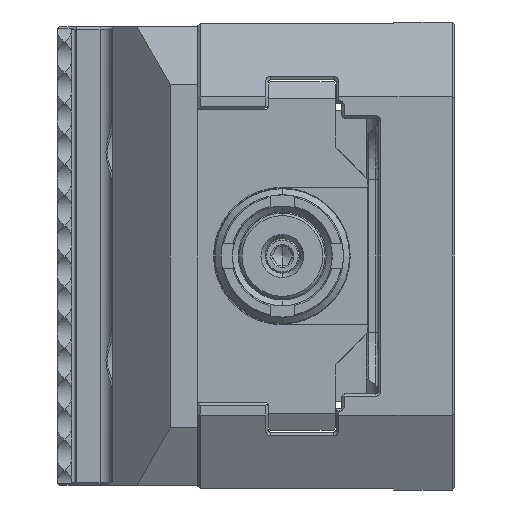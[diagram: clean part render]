
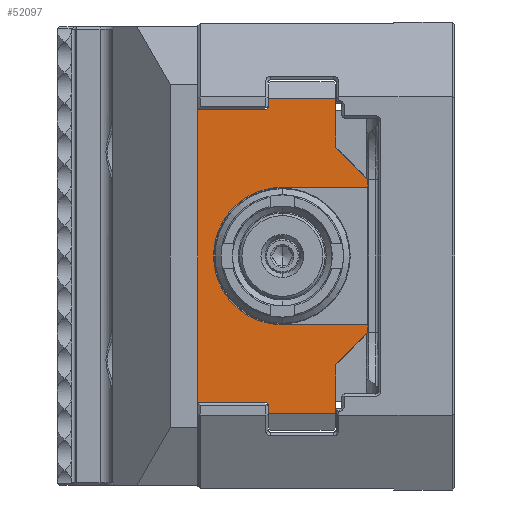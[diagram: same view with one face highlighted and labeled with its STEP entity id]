
A CAD part, left-side view. The second image highlights one B-rep face of the part: STEP entity #52097.
In plain terms, the highlighted planar face has unit normal (-1, 0, 0).
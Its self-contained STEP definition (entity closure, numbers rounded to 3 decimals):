
#2676 = ORIENTED_EDGE ( 'NONE', *, *, #69403, .T. ) ;
#3051 = EDGE_CURVE ( 'NONE', #7035, #76365, #17621, .T. ) ;
#3090 = DIRECTION ( 'NONE',  ( 0., -1., 0. ) ) ;
#3367 = DIRECTION ( 'NONE',  ( 0., -1., 0. ) ) ;
#3919 = DIRECTION ( 'NONE',  ( 0., 0., 1. ) ) ;
#3999 = VECTOR ( 'NONE', #96114, 1000. ) ;
#4088 = ORIENTED_EDGE ( 'NONE', *, *, #95480, .T. ) ;
#5113 = ORIENTED_EDGE ( 'NONE', *, *, #96743, .T. ) ;
#6057 = CARTESIAN_POINT ( 'NONE',  ( -65., 30.5, 24.4 ) ) ;
#6379 = DIRECTION ( 'NONE',  ( 0., 0., 1. ) ) ;
#7035 = VERTEX_POINT ( 'NONE', #47840 ) ;
#7095 = CARTESIAN_POINT ( 'NONE',  ( -65., 28.2, -11.25 ) ) ;
#8138 = CIRCLE ( 'NONE', #43568, 0.4 ) ;
#9413 = CARTESIAN_POINT ( 'NONE',  ( -65., 14.2, 12.5 ) ) ;
#9665 = VERTEX_POINT ( 'NONE', #84530 ) ;
#11365 = EDGE_CURVE ( 'NONE', #72814, #87461, #44064, .T. ) ;
#11815 = CARTESIAN_POINT ( 'NONE',  ( -65., 19.5, -17.8 ) ) ;
#11998 = ORIENTED_EDGE ( 'NONE', *, *, #74750, .T. ) ;
#12407 = ORIENTED_EDGE ( 'NONE', *, *, #26664, .T. ) ;
#15153 = DIRECTION ( 'NONE',  ( 1., 0., 0. ) ) ;
#15381 = CARTESIAN_POINT ( 'NONE',  ( -65., 30.9, -24.4 ) ) ;
#15647 = LINE ( 'NONE', #95244, #47607 ) ;
#17621 = LINE ( 'NONE', #90882, #78495 ) ;
#17735 = CARTESIAN_POINT ( 'NONE',  ( -65., 30.1, 25.729 ) ) ;
#19130 = VECTOR ( 'NONE', #3919, 1000. ) ;
#19704 = LINE ( 'NONE', #76068, #29026 ) ;
#19871 = CARTESIAN_POINT ( 'NONE',  ( -65., 30.5, 24.4 ) ) ;
#19996 = DIRECTION ( 'NONE',  ( 1., 0., 0. ) ) ;
#20553 = VECTOR ( 'NONE', #97365, 1000. ) ;
#21024 = FACE_OUTER_BOUND ( 'NONE', #99986, .T. ) ;
#21031 = DIRECTION ( 'NONE',  ( 0., 0., -1. ) ) ;
#24026 = CARTESIAN_POINT ( 'NONE',  ( -65., 30.9, -24. ) ) ;
#24466 = CARTESIAN_POINT ( 'NONE',  ( -65., 28.2, 0. ) ) ;
#25236 = DIRECTION ( 'NONE',  ( 0., 0.707, 0.707 ) ) ;
#25998 = VERTEX_POINT ( 'NONE', #46339 ) ;
#26664 = EDGE_CURVE ( 'NONE', #88525, #72814, #19704, .T. ) ;
#26705 = DIRECTION ( 'NONE',  ( 0., 1., 0. ) ) ;
#27337 = CARTESIAN_POINT ( 'NONE',  ( -65., 19.9, -25.729 ) ) ;
#27607 = EDGE_CURVE ( 'NONE', #75084, #7035, #15647, .T. ) ;
#27655 = LINE ( 'NONE', #36093, #19130 ) ;
#29026 = VECTOR ( 'NONE', #34476, 1000. ) ;
#29437 = DIRECTION ( 'NONE',  ( 0., 0., -1. ) ) ;
#29808 = EDGE_CURVE ( 'NONE', #32923, #75084, #100856, .T. ) ;
#29945 = VECTOR ( 'NONE', #3090, 1000. ) ;
#30010 = CARTESIAN_POINT ( 'NONE',  ( -65., 14.2, 12.5 ) ) ;
#30537 = CARTESIAN_POINT ( 'NONE',  ( -65., 30.5, -24.4 ) ) ;
#30618 = LINE ( 'NONE', #88025, #75018 ) ;
#30706 = CARTESIAN_POINT ( 'NONE',  ( -65., 19.5, 25.729 ) ) ;
#30969 = CARTESIAN_POINT ( 'NONE',  ( -65., 30.9, 24.4 ) ) ;
#32138 = ORIENTED_EDGE ( 'NONE', *, *, #50267, .F. ) ;
#32256 = VERTEX_POINT ( 'NONE', #45568 ) ;
#32670 = CARTESIAN_POINT ( 'NONE',  ( -65., 28.2, 11.25 ) ) ;
#32923 = VERTEX_POINT ( 'NONE', #53568 ) ;
#34476 = DIRECTION ( 'NONE',  ( 0., -1., 0. ) ) ;
#34513 = ORIENTED_EDGE ( 'NONE', *, *, #78740, .T. ) ;
#35052 = CARTESIAN_POINT ( 'NONE',  ( -65., 14.2, -12.5 ) ) ;
#35844 = CARTESIAN_POINT ( 'NONE',  ( -65., 42., 24. ) ) ;
#36093 = CARTESIAN_POINT ( 'NONE',  ( -65., 14.2, -12.5 ) ) ;
#36346 = LINE ( 'NONE', #92705, #48719 ) ;
#37773 = ORIENTED_EDGE ( 'NONE', *, *, #27607, .T. ) ;
#38367 = DIRECTION ( 'NONE',  ( 0., 0., -1. ) ) ;
#40631 = VERTEX_POINT ( 'NONE', #7095 ) ;
#40771 = EDGE_CURVE ( 'NONE', #73570, #75654, #98267, .T. ) ;
#41046 = LINE ( 'NONE', #9413, #74820 ) ;
#41229 = VECTOR ( 'NONE', #65064, 1000. ) ;
#41269 = CARTESIAN_POINT ( 'NONE',  ( -65., 14.2, -12.5 ) ) ;
#41904 = ORIENTED_EDGE ( 'NONE', *, *, #40771, .T. ) ;
#42518 = ORIENTED_EDGE ( 'NONE', *, *, #68055, .T. ) ;
#43559 = CARTESIAN_POINT ( 'NONE',  ( -65., 14.2, -12.5 ) ) ;
#43568 = AXIS2_PLACEMENT_3D ( 'NONE', #15381, #96523, #47551 ) ;
#43744 = ORIENTED_EDGE ( 'NONE', *, *, #3051, .T. ) ;
#44064 = LINE ( 'NONE', #43559, #88514 ) ;
#44283 = CIRCLE ( 'NONE', #98045, 0.4 ) ;
#45568 = CARTESIAN_POINT ( 'NONE',  ( -65., 30.5, 25.729 ) ) ;
#46339 = CARTESIAN_POINT ( 'NONE',  ( -65., 19.5, 17.8 ) ) ;
#46441 = LINE ( 'NONE', #80101, #90721 ) ;
#47551 = DIRECTION ( 'NONE',  ( 0., 0., 1. ) ) ;
#47607 = VECTOR ( 'NONE', #38367, 1000. ) ;
#47840 = CARTESIAN_POINT ( 'NONE',  ( -65., 42., -24. ) ) ;
#48719 = VECTOR ( 'NONE', #21031, 1000. ) ;
#49615 = ORIENTED_EDGE ( 'NONE', *, *, #85641, .T. ) ;
#50267 = EDGE_CURVE ( 'NONE', #88525, #40631, #70610, .T. ) ;
#50719 = ORIENTED_EDGE ( 'NONE', *, *, #83503, .T. ) ;
#50994 = ORIENTED_EDGE ( 'NONE', *, *, #29808, .T. ) ;
#52097 = ADVANCED_FACE ( 'NONE', ( #21024 ), #101120, .F. ) ;
#53568 = CARTESIAN_POINT ( 'NONE',  ( -65., 30.9, 24. ) ) ;
#54875 = VERTEX_POINT ( 'NONE', #30537 ) ;
#56897 = VERTEX_POINT ( 'NONE', #87919 ) ;
#59409 = EDGE_CURVE ( 'NONE', #87461, #25998, #41046, .T. ) ;
#60350 = VECTOR ( 'NONE', #26705, 1000. ) ;
#60553 = DIRECTION ( 'NONE',  ( 0., 0., -1. ) ) ;
#62766 = ORIENTED_EDGE ( 'NONE', *, *, #78394, .T. ) ;
#63252 = ORIENTED_EDGE ( 'NONE', *, *, #96423, .F. ) ;
#63299 = ORIENTED_EDGE ( 'NONE', *, *, #11365, .T. ) ;
#63555 = VERTEX_POINT ( 'NONE', #30706 ) ;
#63983 = VERTEX_POINT ( 'NONE', #19871 ) ;
#65064 = DIRECTION ( 'NONE',  ( 0., -0.707, 0.707 ) ) ;
#67162 = CARTESIAN_POINT ( 'NONE',  ( -65., 30.5, -25.729 ) ) ;
#68055 = EDGE_CURVE ( 'NONE', #63983, #32923, #44283, .T. ) ;
#69403 = EDGE_CURVE ( 'NONE', #32256, #63983, #69836, .T. ) ;
#69836 = LINE ( 'NONE', #6057, #3999 ) ;
#70258 = CARTESIAN_POINT ( 'NONE',  ( -65., 42., 24. ) ) ;
#70610 = CIRCLE ( 'NONE', #97540, 11.25 ) ;
#70860 = DIRECTION ( 'NONE',  ( 0., 0., 1. ) ) ;
#71899 = DIRECTION ( 'NONE',  ( -1., 0., 0. ) ) ;
#72814 = VERTEX_POINT ( 'NONE', #93721 ) ;
#73570 = VERTEX_POINT ( 'NONE', #11815 ) ;
#74243 = LINE ( 'NONE', #27337, #29945 ) ;
#74750 = EDGE_CURVE ( 'NONE', #56897, #73570, #30618, .T. ) ;
#74820 = VECTOR ( 'NONE', #25236, 1000. ) ;
#75018 = VECTOR ( 'NONE', #6379, 1000. ) ;
#75084 = VERTEX_POINT ( 'NONE', #35844 ) ;
#75654 = VERTEX_POINT ( 'NONE', #41269 ) ;
#75845 = CARTESIAN_POINT ( 'NONE',  ( -65., 30.9, 24.4 ) ) ;
#76068 = CARTESIAN_POINT ( 'NONE',  ( -65., 30.9, 11.25 ) ) ;
#76365 = VERTEX_POINT ( 'NONE', #24026 ) ;
#78394 = EDGE_CURVE ( 'NONE', #101057, #56897, #74243, .T. ) ;
#78495 = VECTOR ( 'NONE', #3367, 1000. ) ;
#78740 = EDGE_CURVE ( 'NONE', #63555, #32256, #90992, .T. ) ;
#80101 = CARTESIAN_POINT ( 'NONE',  ( -65., 28.2, -11.25 ) ) ;
#80497 = CARTESIAN_POINT ( 'NONE',  ( -65., 19.5, 28.1 ) ) ;
#82611 = LINE ( 'NONE', #80497, #20553 ) ;
#83503 = EDGE_CURVE ( 'NONE', #25998, #63555, #82611, .T. ) ;
#83714 = ORIENTED_EDGE ( 'NONE', *, *, #59409, .T. ) ;
#84530 = CARTESIAN_POINT ( 'NONE',  ( -65., 14.2, -11.25 ) ) ;
#85641 = EDGE_CURVE ( 'NONE', #75654, #9665, #27655, .T. ) ;
#87461 = VERTEX_POINT ( 'NONE', #30010 ) ;
#87919 = CARTESIAN_POINT ( 'NONE',  ( -65., 19.5, -25.729 ) ) ;
#88025 = CARTESIAN_POINT ( 'NONE',  ( -65., 19.5, -28.1 ) ) ;
#88514 = VECTOR ( 'NONE', #90467, 1000. ) ;
#88525 = VERTEX_POINT ( 'NONE', #32670 ) ;
#90467 = DIRECTION ( 'NONE',  ( 0., 0., 1. ) ) ;
#90721 = VECTOR ( 'NONE', #95402, 1000. ) ;
#90882 = CARTESIAN_POINT ( 'NONE',  ( -65., 42., -24. ) ) ;
#90992 = LINE ( 'NONE', #17735, #60350 ) ;
#92705 = CARTESIAN_POINT ( 'NONE',  ( -65., 30.5, -24.4 ) ) ;
#92735 = AXIS2_PLACEMENT_3D ( 'NONE', #75845, #19996, #60553 ) ;
#93721 = CARTESIAN_POINT ( 'NONE',  ( -65., 14.2, 11.25 ) ) ;
#95244 = CARTESIAN_POINT ( 'NONE',  ( -65., 42., -24. ) ) ;
#95402 = DIRECTION ( 'NONE',  ( 0., -1., 0. ) ) ;
#95480 = EDGE_CURVE ( 'NONE', #76365, #54875, #8138, .T. ) ;
#96114 = DIRECTION ( 'NONE',  ( 0., 0., -1. ) ) ;
#96423 = EDGE_CURVE ( 'NONE', #40631, #9665, #46441, .T. ) ;
#96523 = DIRECTION ( 'NONE',  ( 1., 0., 0. ) ) ;
#96743 = EDGE_CURVE ( 'NONE', #54875, #101057, #36346, .T. ) ;
#97365 = DIRECTION ( 'NONE',  ( 0., 0., 1. ) ) ;
#97540 = AXIS2_PLACEMENT_3D ( 'NONE', #24466, #71899, #70860 ) ;
#98045 = AXIS2_PLACEMENT_3D ( 'NONE', #30969, #15153, #29437 ) ;
#98267 = LINE ( 'NONE', #35052, #41229 ) ;
#99986 = EDGE_LOOP ( 'NONE', ( #5113, #62766, #11998, #41904, #49615, #63252, #32138, #12407, #63299, #83714, #50719, #34513, #2676, #42518, #50994, #37773, #43744, #4088 ) ) ;
#100856 = LINE ( 'NONE', #70258, #101774 ) ;
#101057 = VERTEX_POINT ( 'NONE', #67162 ) ;
#101120 = PLANE ( 'NONE',  #92735 ) ;
#101774 = VECTOR ( 'NONE', #102407, 1000. ) ;
#102407 = DIRECTION ( 'NONE',  ( 0., 1., 0. ) ) ;
